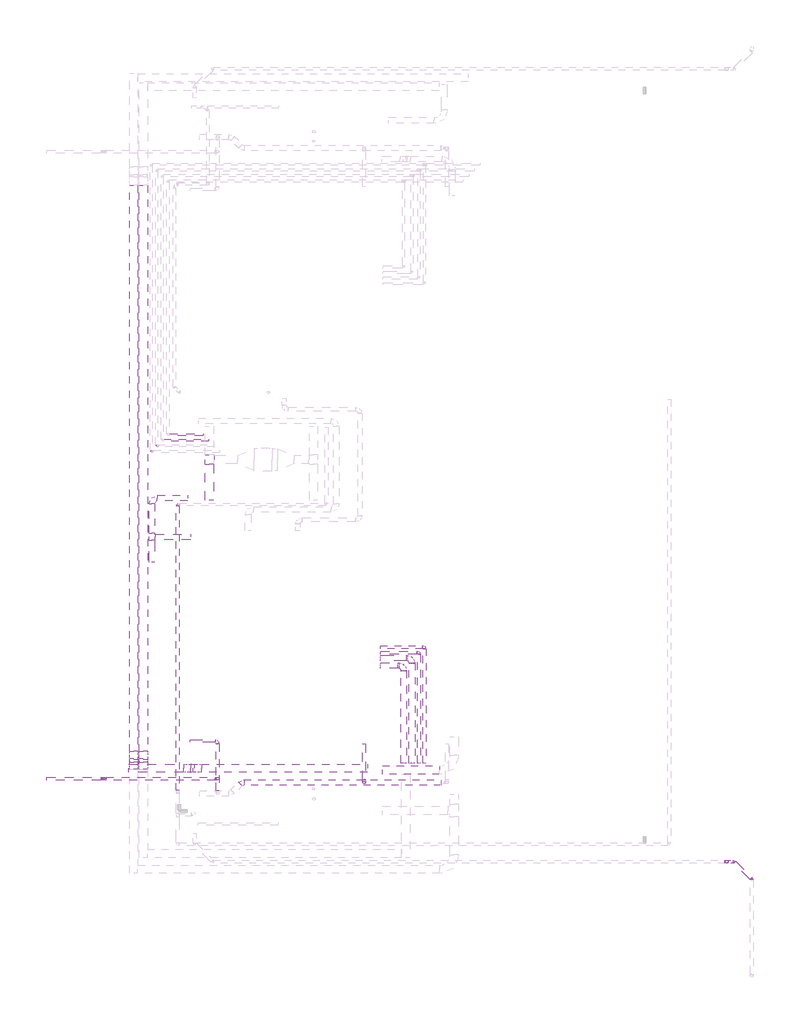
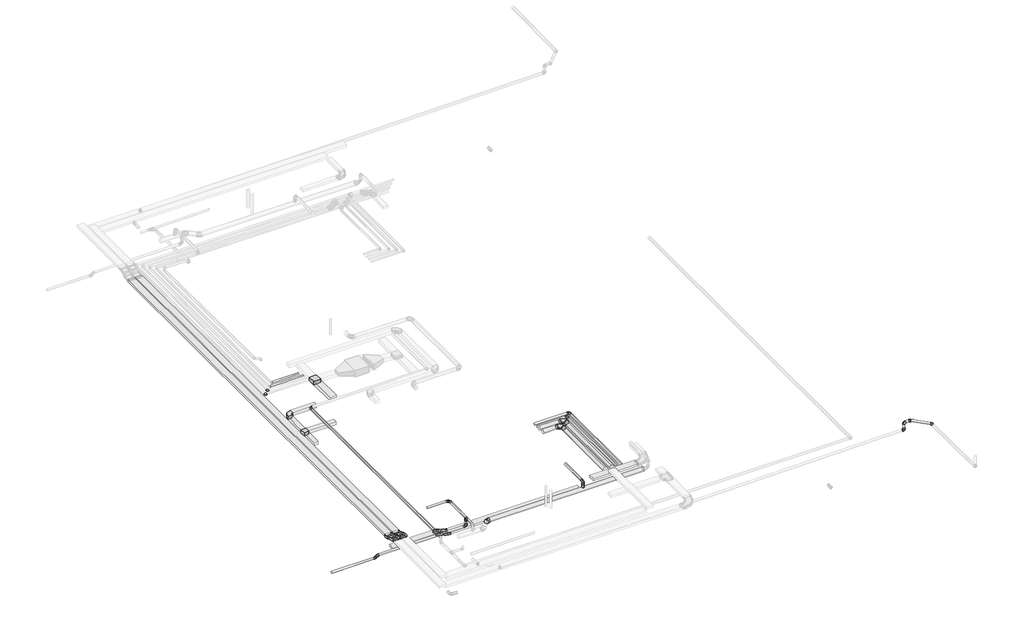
# One storey, part 2 of 5: 14 duct segments, 14 pipe segments, 11 duct fittings, 11 pipe fittings, 8 cable carrier segments, 6 cable carrier fittings.
"""IFC4 building model written with IfcOpenShell, lengths in millimetres."""

from ifc_helpers import new_model, si_unit, point, frame, frame_2d, origin, place, context, project, spatial, polyline, circle_curve, trimmed, segment, composite_curve, outline, extrude, transform, mapped, element, save
from components import m_codo_vertical_exterior_de_canal_el_547dc688, m_codo_vertical_interior_de_canal_el_a775c4ca, apt_33348139, ext_8b80eda7, ext_110b8343, ext_95de42ea, m_codo_rectangular_radio_apt_1_w_a605e9b7, m_codo_redondo_ext_1_d_96ea52f9, m_codo_redondo_ext_1_d_19f6bd6d, m_codo_redondo_ext_1_d_bb529a0e, pipe_fitting_0b7fd5a4, pipe_fitting_aab77541, pipe_fitting_0af9fee6, pipe_fitting_39727cd3, pipe_fitting_3b77712d, pipe_fitting_2358b14d, pipe_fitting_3a68447e, pipe_fitting_87aeffad

model = new_model("IFC4")

# Units and contexts
model_context = context("Model", 3, world=origin())
ifc_project = project(units=[si_unit("LENGTHUNIT", "METRE", prefix="MILLI")], contexts=[model_context])

# Site, building, storey
site = spatial("IfcSite", under=ifc_project)
building = spatial("IfcBuilding", under=site)
storey = spatial("IfcBuildingStorey", under=building, Name="Nivell 03 P03_PP", Elevation=18660.0)

# Cable carrier fittings
placement = place(None, origin())
m_codo_vertical_exterior_de_canal_el_shape = m_codo_vertical_exterior_de_canal_el_547dc688(model_context)
element("IfcCableCarrierFitting", 1, ObjectType="M_Codo vertical exterior de canal : EL", at=placement, inside=storey, context=model_context, shape_type="MappedRepresentation", body=[
    mapped(m_codo_vertical_exterior_de_canal_el_shape, transform((5357.0671065, -15355.3999814, 21910.0), x_axis=(0.0, 1.0, 0.0), y_axis=(0.0, 0.0, -1.0), z_axis=(-1.0, 0.0, 0.0))),
])
element("IfcCableCarrierFitting", 2, ObjectType="M_Codo vertical exterior de canal : EL", at=placement, inside=storey, context=model_context, shape_type="MappedRepresentation", body=[
    mapped(m_codo_vertical_exterior_de_canal_el_shape, transform((5008.2381883, -15355.3999814, 21910.0), x_axis=(0.0, -0.9238795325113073, 0.38268343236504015), y_axis=(0.0, -0.38268343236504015, -0.9238795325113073), z_axis=(1.0, 0.0, 0.0))),
])
element("IfcCableCarrierFitting", 3, ObjectType="M_Codo vertical exterior de canal : EL", at=placement, inside=storey, context=model_context, shape_type="MappedRepresentation", body=[
    mapped(m_codo_vertical_exterior_de_canal_el_shape, transform((6956.7785309, -15459.2996833, 21560.0), x_axis=(1.0, 0.0, 0.0), y_axis=(0.0, 0.0, -1.0), z_axis=(0.0, 1.0, 0.0))),
])
m_codo_vertical_interior_de_canal_el_shape = m_codo_vertical_interior_de_canal_el_a775c4ca(model_context)
element("IfcCableCarrierFitting", 4, ObjectType="M_Codo vertical interior de canal : EL", at=placement, inside=storey, context=model_context, shape_type="MappedRepresentation", body=[
    mapped(m_codo_vertical_interior_de_canal_el_shape, transform((5357.0671065, -14993.267947, 21760.0), x_axis=(0.0, 0.9238795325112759, -0.38268343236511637), y_axis=(0.0, 0.38268343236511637, 0.9238795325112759), z_axis=(1.0, 0.0, 0.0))),
])
element("IfcCableCarrierFitting", 5, ObjectType="M_Codo vertical interior de canal : EL", at=placement, inside=storey, context=model_context, shape_type="MappedRepresentation", body=[
    mapped(m_codo_vertical_interior_de_canal_el_shape, transform((5008.2381883, -14993.267947, 21760.0), x_axis=(0.0, -1.0, 0.0), y_axis=(0.0, 0.0, 1.0), z_axis=(-1.0, 0.0, 0.0))),
])
element("IfcCableCarrierFitting", 6, ObjectType="M_Codo vertical interior de canal : EL", at=placement, inside=storey, context=model_context, shape_type="MappedRepresentation", body=[
    mapped(m_codo_vertical_interior_de_canal_el_shape, transform((7318.9105653, -15459.2996833, 21410.0), x_axis=(0.9238795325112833, 0.0, -0.38268343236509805), y_axis=(0.38268343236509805, 0.0, 0.9238795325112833), z_axis=(0.0, -1.0, 0.0))),
])

# Cable carrier segments
element("IfcCableCarrierSegment", 7, ObjectType="EL", at=placement, inside=storey, context=model_context, shape_type="SweptSolid", body=[
    extrude(outline(polyline([(6812.1592023, -15309.2996833), (6812.1592023, -15609.2996833), (4831.7785309, -15609.2996833), (4831.7785309, -15309.2996833), (6812.1592023, -15309.2996833)])), frame((0.0, 0.0, 21510.0), z_axis=(0.0, 0.0, 1.0), x_axis=(1.0, 0.0, 0.0)), (0.0, 0.0, 1.0), 100.0),
])
element("IfcCableCarrierSegment", 8, ObjectType="EL", at=placement, inside=storey, context=model_context, shape_type="SweptSolid", body=[
    extrude(outline(polyline([(16089.6624278, -15371.1304394), (16089.6624278, -15671.1304394), (14011.0671065, -15671.1304394), (14011.0671065, -15371.1304394), (16089.6624278, -15371.1304394)])), frame((0.0, 0.0, 21710.0), z_axis=(0.0, 0.0, 1.0), x_axis=(1.0, 0.0, 0.0)), (0.0, 0.0, 1.0), 100.0),
])
element("IfcCableCarrierSegment", 9, ObjectType="EL", at=placement, inside=storey, context=model_context, shape_type="SweptSolid", body=[
    extrude(outline(polyline([(0.0, -300.0), (0.0, 0.0), (102.7302323, 0.0), (102.7302323, -300.0), (0.0, -300.0)])), frame((5207.0671065, -15240.9233153, 21808.4626023), z_axis=(0.0, 0.38268343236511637, 0.9238795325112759), x_axis=(0.0, 0.9238795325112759, -0.38268343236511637)), (0.0, 0.0, 1.0), 100.0),
])
element("IfcCableCarrierSegment", 10, ObjectType="EL", at=placement, inside=storey, context=model_context, shape_type="SweptSolid", body=[
    extrude(outline(polyline([(5507.0671065, -14848.6486184), (5207.0671065, -14848.6486184), (5207.0671065, 5634.423571), (5507.0671065, 5634.423571), (5507.0671065, -14848.6486184)])), frame((0.0, 0.0, 21710.0), z_axis=(0.0, 0.0, 1.0), x_axis=(1.0, 0.0, 0.0)), (0.0, 0.0, 1.0), 100.0),
])
element("IfcCableCarrierSegment", 11, ObjectType="EL", at=placement, inside=storey, context=model_context, shape_type="SweptSolid", body=[
    extrude(outline(polyline([(4858.2381883, 5634.423571), (5158.2381883, 5634.423571), (5158.2381883, -14848.6486184), (4858.2381883, -14848.6486184), (4858.2381883, 5634.423571)])), frame((0.0, 0.0, 21710.0), z_axis=(0.0, 0.0, 1.0), x_axis=(1.0, 0.0, 0.0)), (0.0, 0.0, 1.0), 100.0),
])
element("IfcCableCarrierSegment", 12, ObjectType="EL", at=placement, inside=storey, context=model_context, shape_type="SweptSolid", body=[
    extrude(outline(polyline([(0.0, -300.0), (0.0, 0.0), (102.7302323, 0.0), (102.7302323, -300.0), (0.0, -300.0)])), frame((5158.2381883, -15146.0129563, 21769.1494444), z_axis=(0.0, 0.3826834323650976, 0.9238795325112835), x_axis=(0.0, -0.9238795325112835, 0.3826834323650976)), (0.0, 0.0, 1.0), 100.0),
])
element("IfcCableCarrierSegment", 13, ObjectType="EL", at=placement, inside=storey, context=model_context, shape_type="SweptSolid", body=[
    extrude(outline(polyline([(7463.5298938, -15609.2996833), (7463.5298938, -15309.2996833), (13469.9876148, -15309.2996833), (13469.9876148, -15609.2996833), (7463.5298938, -15609.2996833)])), frame((0.0, 0.0, 21360.0), z_axis=(0.0, 0.0, 1.0), x_axis=(1.0, 0.0, 0.0)), (0.0, 0.0, 1.0), 100.0),
])
element("IfcCableCarrierSegment", 14, ObjectType="EL", at=placement, inside=storey, context=model_context, shape_type="SweptSolid", body=[
    extrude(outline(polyline([(0.0, -300.0), (0.0, 0.0), (102.7302323, 0.0), (102.7302323, -300.0), (0.0, -300.0)])), frame((7071.255197, -15309.2996833, 21458.4626023), z_axis=(0.38268343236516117, 0.0, 0.9238795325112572), x_axis=(0.9238795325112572, 0.0, -0.38268343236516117)), (0.0, 0.0, 1.0), 100.0),
])

# Duct fittings
apt_shape = apt_33348139(model_context)
element("IfcDuctFitting", 15, ObjectType="M_Te rectangular : APT", at=placement, inside=storey, context=model_context, shape_type="MappedRepresentation", body=[
    mapped(apt_shape, transform((5665.7790997, -7084.7059364, 21810.0), x_axis=(0.0, 1.0, 0.0), y_axis=(-1.0, 0.0, 0.0), z_axis=(0.0, 0.0, 1.0))),
])
ext_shape = ext_8b80eda7(model_context)
element("IfcDuctFitting", 16, ObjectType="M_Toma de derivación redonda : EXT", at=placement, inside=storey, context=model_context, shape_type="MappedRepresentation", body=[
    mapped(ext_shape, transform((13350.5896993, -15972.9719502, 21840.0), x_axis=(0.0, 0.0, 1.0), y_axis=(-1.0, 0.0, 0.0), z_axis=(0.0, -1.0, 0.0))),
])
ext_2_shape = ext_110b8343(model_context)
element("IfcDuctFitting", 17, ObjectType="M_Toma de derivación redonda : EXT", at=placement, inside=storey, context=model_context, shape_type="MappedRepresentation", body=[
    mapped(ext_2_shape, transform((8050.5896993, -15837.2857017, 22060.0), x_axis=(0.0, 0.0, -1.0), y_axis=(0.0, -1.0, 0.0), z_axis=(-1.0, 0.0, 0.0))),
])
ext_3_shape = ext_95de42ea(model_context)
element("IfcDuctFitting", 18, ObjectType="M_Te rectangular : EXT", at=placement, inside=storey, context=model_context, shape_type="MappedRepresentation", body=[
    mapped(ext_3_shape, transform((7746.1618177, -4289.990201, 21927.1198525), x_axis=(0.0, 1.0, 0.0), y_axis=(-1.0, 0.0, 0.0), z_axis=(0.0, 0.0, 1.0))),
])
m_codo_rectangular_radio_apt_1_w_shape = m_codo_rectangular_radio_apt_1_w_a605e9b7(model_context)
element("IfcDuctFitting", 19, ObjectType="M_Codo rectangular - Radio : APT_1 W", at=placement, inside=storey, context=model_context, shape_type="MappedRepresentation", body=[
    mapped(m_codo_rectangular_radio_apt_1_w_shape, transform((5665.7790997, -5684.7059364, 21810.0), x_axis=(-1.0, 0.0, 0.0), y_axis=(0.0, -1.0, 0.0), z_axis=(0.0, 0.0, 1.0))),
])
m_codo_redondo_ext_1_d_shape = m_codo_redondo_ext_1_d_96ea52f9(model_context)
element("IfcDuctFitting", 20, ObjectType="M_Codo redondo : EXT_1 D", at=placement, inside=storey, context=model_context, shape_type="MappedRepresentation", body=[
    mapped(m_codo_redondo_ext_1_d_shape, transform((8050.5896993, -14471.4839002, 22110.0), x_axis=(1.0, 0.0, 0.0), y_axis=(0.0, 1.0, 0.0), z_axis=(0.0, 0.0, 1.0))),
])
element("IfcDuctFitting", 21, ObjectType="M_Codo redondo : EXT_1 D", at=placement, inside=storey, context=model_context, shape_type="MappedRepresentation", body=[
    mapped(m_codo_redondo_ext_1_d_shape, transform((13350.5896993, -15972.9719502, 22110.0), x_axis=(0.0, -1.0, 0.0), y_axis=(0.0, 0.0, 1.0), z_axis=(-1.0, 0.0, 0.0))),
])
element("IfcDuctFitting", 22, ObjectType="M_Codo redondo : EXT_1 D", at=placement, inside=storey, context=model_context, shape_type="MappedRepresentation", body=[
    mapped(m_codo_redondo_ext_1_d_shape, transform((8050.5896993, -15837.2857017, 21710.0), x_axis=(0.0, 0.0, -1.0), y_axis=(1.0, 0.0, 0.0), z_axis=(0.0, -1.0, 0.0))),
])
m_codo_redondo_ext_1_d_2_shape = m_codo_redondo_ext_1_d_19f6bd6d(model_context)
element("IfcDuctFitting", 23, ObjectType="M_Codo redondo : EXT_1 D", at=placement, inside=storey, context=model_context, shape_type="MappedRepresentation", body=[
    mapped(m_codo_redondo_ext_1_d_2_shape, transform((8930.5896993, -15972.9719502, 21740.0), x_axis=(0.7071067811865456, 0.7071067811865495, 0.0), y_axis=(-0.7071067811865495, 0.7071067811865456, 0.0), z_axis=(0.0, 0.0, 1.0))),
])
m_codo_redondo_ext_1_d_3_shape = m_codo_redondo_ext_1_d_bb529a0e(model_context)
element("IfcDuctFitting", 24, ObjectType="M_Codo redondo : EXT_1 D", at=placement, inside=storey, context=model_context, shape_type="MappedRepresentation", body=[
    mapped(m_codo_redondo_ext_1_d_3_shape, transform((3864.5896993, -15837.2857017, 21610.0), x_axis=(1.0, 0.0, 0.0), y_axis=(0.0, 0.0, -1.0), z_axis=(0.0, 1.0, 0.0))),
])
element("IfcDuctFitting", 25, ObjectType="M_Codo redondo : EXT_1 D", at=placement, inside=storey, context=model_context, shape_type="MappedRepresentation", body=[
    mapped(m_codo_redondo_ext_1_d_3_shape, transform((3964.5896993, -15837.2857017, 21710.0), x_axis=(0.7071067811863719, 0.0, 0.7071067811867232), y_axis=(-0.7071067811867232, 0.0, 0.7071067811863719), z_axis=(0.0, -1.0, 0.0))),
])

# Duct segments
element("IfcDuctSegment", 26, ObjectType="APT_Fibra de vidre rígida", at=placement, inside=storey, context=model_context, shape_type="SweptSolid", body=[
    extrude(outline(polyline([(7065.7790997, -6984.7059364), (7065.7790997, -7184.7059364), (5790.7790997, -7184.7059364), (5790.7790997, -6984.7059364), (7065.7790997, -6984.7059364)])), frame((0.0, 0.0, 21735.0), z_axis=(0.0, 0.0, 1.0), x_axis=(1.0, 0.0, 0.0)), (0.0, 0.0, 1.0), 150.0),
])
element("IfcDuctSegment", 27, ObjectType="APT_Fibra de vidre rígida", at=placement, inside=storey, context=model_context, shape_type="SweptSolid", body=[
    extrude(outline(polyline([(5765.7790997, -6959.7059364), (5565.7790997, -6959.7059364), (5565.7790997, -5884.7059364), (5765.7790997, -5884.7059364), (5765.7790997, -6959.7059364)])), frame((0.0, 0.0, 21735.0), z_axis=(0.0, 0.0, 1.0), x_axis=(1.0, 0.0, 0.0)), (0.0, 0.0, 1.0), 150.0),
])
element("IfcDuctSegment", 28, ObjectType="APT_Fibra de vidre rígida", at=placement, inside=storey, context=model_context, shape_type="SweptSolid", body=[
    extrude(outline(polyline([(5865.7790997, -5784.7059364), (5865.7790997, -5584.7059364), (6965.7790997, -5584.7059364), (6965.7790997, -5784.7059364), (5865.7790997, -5784.7059364)])), frame((0.0, 0.0, 21735.0), z_axis=(0.0, 0.0, 1.0), x_axis=(1.0, 0.0, 0.0)), (0.0, 0.0, 1.0), 150.0),
])
element("IfcDuctSegment", 29, ObjectType="APT_Fibra de vidre rígida", at=placement, inside=storey, context=model_context, shape_type="SweptSolid", body=[
    extrude(outline(polyline([(5565.7790997, -7209.7059364), (5765.7790997, -7209.7059364), (5765.7790997, -8009.7059364), (5565.7790997, -8009.7059364), (5565.7790997, -7209.7059364)])), frame((0.0, 0.0, 21735.0), z_axis=(0.0, 0.0, 1.0), x_axis=(1.0, 0.0, 0.0)), (0.0, 0.0, 1.0), 150.0),
])
element("IfcDuctSegment", 30, ObjectType="EXT_Acer Galvanitzat - Rígid", at=placement, inside=storey, context=model_context, shape_type="SweptSolid", body=[
    extrude(outline(composite_curve([segment(trimmed(circle_curve(frame_2d((-15972.9719502, 21740.0)), 100.0), [point((-15872.9719502, 21740.0))], [point((-15972.9719502, 21640.0))], False, "CARTESIAN"), True, "CONTINUOUS"), segment(trimmed(circle_curve(frame_2d((-15972.9719502, 21740.0)), 100.0), [point((-15972.9719502, 21640.0))], [point((-16072.9719502, 21740.0))], False, "CARTESIAN"), True, "CONTINUOUS"), segment(trimmed(circle_curve(frame_2d((-15972.9719502, 21740.0)), 100.0), [point((-16072.9719502, 21740.0))], [point((-15972.9719502, 21840.0))], False, "CARTESIAN"), True, "CONTINUOUS"), segment(trimmed(circle_curve(frame_2d((-15972.9719502, 21740.0)), 100.0), [point((-15972.9719502, 21840.0))], [point((-15872.9719502, 21740.0))], False, "CARTESIAN"), True, "CONTINUOUS")], self_intersect=False)), frame((9013.4324117, 0.0, 0.0), z_axis=(1.0, 0.0, 0.0), x_axis=(0.0, 1.0, 0.0)), (0.0, 0.0, 1.0), 7116.4466094),
])
element("IfcDuctSegment", 31, ObjectType="EXT_Acer Galvanitzat - Rígid", at=placement, inside=storey, context=model_context, shape_type="SweptSolid", body=[
    extrude(outline(composite_curve([segment(trimmed(circle_curve(frame_2d((-14471.4839002, 22110.0)), 50.0), [point((-14521.4839002, 22110.0))], [point((-14471.4839002, 22160.0))], False, "CARTESIAN"), True, "CONTINUOUS"), segment(trimmed(circle_curve(frame_2d((-14471.4839002, 22110.0)), 50.0), [point((-14471.4839002, 22160.0))], [point((-14421.4839002, 22110.0))], False, "CARTESIAN"), True, "CONTINUOUS"), segment(trimmed(circle_curve(frame_2d((-14471.4839002, 22110.0)), 50.0), [point((-14421.4839002, 22110.0))], [point((-14471.4839002, 22060.0))], False, "CARTESIAN"), True, "CONTINUOUS"), segment(trimmed(circle_curve(frame_2d((-14471.4839002, 22110.0)), 50.0), [point((-14471.4839002, 22060.0))], [point((-14521.4839002, 22110.0))], False, "CARTESIAN"), True, "CONTINUOUS")], self_intersect=False)), frame((7050.5896993, 0.0, 0.0), z_axis=(1.0, 0.0, 0.0), x_axis=(0.0, 1.0, 0.0)), (0.0, 0.0, 1.0), 900.0),
])
element("IfcDuctSegment", 32, ObjectType="EXT_Acer Galvanitzat - Rígid", at=placement, inside=storey, context=model_context, shape_type="SweptSolid", body=[
    extrude(outline(composite_curve([segment(trimmed(circle_curve(frame_2d((22110.0, 8050.5896993)), 50.0), [point((22110.0, 8100.5896993))], [point((22160.0, 8050.5896993))], False, "CARTESIAN"), True, "CONTINUOUS"), segment(trimmed(circle_curve(frame_2d((22110.0, 8050.5896993)), 50.0), [point((22160.0, 8050.5896993))], [point((22110.0, 8000.5896993))], False, "CARTESIAN"), True, "CONTINUOUS"), segment(trimmed(circle_curve(frame_2d((22110.0, 8050.5896993)), 50.0), [point((22110.0, 8000.5896993))], [point((22060.0, 8050.5896993))], False, "CARTESIAN"), True, "CONTINUOUS"), segment(trimmed(circle_curve(frame_2d((22110.0, 8050.5896993)), 50.0), [point((22060.0, 8050.5896993))], [point((22110.0, 8100.5896993))], False, "CARTESIAN"), True, "CONTINUOUS")], self_intersect=False)), frame((0.0, -16272.9719502, 0.0), z_axis=(0.0, 1.0, 0.0), x_axis=(0.0, 0.0, 1.0)), (0.0, 0.0, 1.0), 1701.48805),
])
element("IfcDuctSegment", 33, ObjectType="EXT_Acer Galvanitzat - Rígid", at=placement, inside=storey, context=model_context, shape_type="SweptSolid", body=[
    extrude(outline(composite_curve([segment(trimmed(circle_curve(frame_2d((22110.0, 13350.5896993)), 50.0), [point((22110.0, 13400.5896993))], [point((22160.0, 13350.5896993))], False, "CARTESIAN"), True, "CONTINUOUS"), segment(trimmed(circle_curve(frame_2d((22110.0, 13350.5896993)), 50.0), [point((22160.0, 13350.5896993))], [point((22110.0, 13300.5896993))], False, "CARTESIAN"), True, "CONTINUOUS"), segment(trimmed(circle_curve(frame_2d((22110.0, 13350.5896993)), 50.0), [point((22110.0, 13300.5896993))], [point((22060.0, 13350.5896993))], False, "CARTESIAN"), True, "CONTINUOUS"), segment(trimmed(circle_curve(frame_2d((22110.0, 13350.5896993)), 50.0), [point((22060.0, 13350.5896993))], [point((22110.0, 13400.5896993))], False, "CARTESIAN"), True, "CONTINUOUS")], self_intersect=False)), frame((0.0, -15872.9719502, 0.0), z_axis=(0.0, 1.0, 0.0), x_axis=(0.0, 0.0, 1.0)), (0.0, 0.0, 1.0), 1301.48805),
])
element("IfcDuctSegment", 34, ObjectType="EXT_Acer Galvanitzat - Rígid", at=placement, inside=storey, context=model_context, shape_type="SweptSolid", body=[
    extrude(outline(composite_curve([segment(trimmed(circle_curve(frame_2d((13350.5896993, -15972.9719502)), 50.0), [point((13300.5896993, -15972.9719502))], [point((13350.5896993, -15922.9719502))], False, "CARTESIAN"), True, "CONTINUOUS"), segment(trimmed(circle_curve(frame_2d((13350.5896993, -15972.9719502)), 50.0), [point((13350.5896993, -15922.9719502))], [point((13400.5896993, -15972.9719502))], False, "CARTESIAN"), True, "CONTINUOUS"), segment(trimmed(circle_curve(frame_2d((13350.5896993, -15972.9719502)), 50.0), [point((13400.5896993, -15972.9719502))], [point((13350.5896993, -16022.9719502))], False, "CARTESIAN"), True, "CONTINUOUS"), segment(trimmed(circle_curve(frame_2d((13350.5896993, -15972.9719502)), 50.0), [point((13350.5896993, -16022.9719502))], [point((13300.5896993, -15972.9719502))], False, "CARTESIAN"), True, "CONTINUOUS")], self_intersect=False)), frame((0.0, 0.0, 21941.6), z_axis=(0.0, 0.0, 1.0), x_axis=(1.0, 0.0, 0.0)), (0.0, 0.0, 1.0), 68.4),
])
element("IfcDuctSegment", 35, ObjectType="EXT_Acer Galvanitzat - Rígid", at=placement, inside=storey, context=model_context, shape_type="SweptSolid", body=[
    extrude(outline(composite_curve([segment(trimmed(circle_curve(frame_2d((8050.5896993, -15837.2857017)), 50.0), [point((8050.5896993, -15787.2857017))], [point((8100.5896993, -15837.2857017))], False, "CARTESIAN"), True, "CONTINUOUS"), segment(trimmed(circle_curve(frame_2d((8050.5896993, -15837.2857017)), 50.0), [point((8100.5896993, -15837.2857017))], [point((8050.5896993, -15887.2857017))], False, "CARTESIAN"), True, "CONTINUOUS"), segment(trimmed(circle_curve(frame_2d((8050.5896993, -15837.2857017)), 50.0), [point((8050.5896993, -15887.2857017))], [point((8000.5896993, -15837.2857017))], False, "CARTESIAN"), True, "CONTINUOUS"), segment(trimmed(circle_curve(frame_2d((8050.5896993, -15837.2857017)), 50.0), [point((8000.5896993, -15837.2857017))], [point((8050.5896993, -15787.2857017))], False, "CARTESIAN"), True, "CONTINUOUS")], self_intersect=False)), frame((0.0, 0.0, 21810.0), z_axis=(0.0, 0.0, 1.0), x_axis=(1.0, 0.0, 0.0)), (0.0, 0.0, 1.0), 148.4),
])
element("IfcDuctSegment", 36, ObjectType="EXT_Acer Galvanitzat - Rígid", at=placement, inside=storey, context=model_context, shape_type="SweptSolid", body=[
    extrude(outline(composite_curve([segment(trimmed(circle_curve(frame_2d((-15837.2857017, 21610.0)), 50.0), [point((-15787.2857017, 21610.0))], [point((-15837.2857017, 21560.0))], False, "CARTESIAN"), True, "CONTINUOUS"), segment(trimmed(circle_curve(frame_2d((-15837.2857017, 21610.0)), 50.0), [point((-15837.2857017, 21560.0))], [point((-15887.2857017, 21610.0))], False, "CARTESIAN"), True, "CONTINUOUS"), segment(trimmed(circle_curve(frame_2d((-15837.2857017, 21610.0)), 50.0), [point((-15887.2857017, 21610.0))], [point((-15837.2857017, 21660.0))], False, "CARTESIAN"), True, "CONTINUOUS"), segment(trimmed(circle_curve(frame_2d((-15837.2857017, 21610.0)), 50.0), [point((-15837.2857017, 21660.0))], [point((-15787.2857017, 21610.0))], False, "CARTESIAN"), True, "CONTINUOUS")], self_intersect=False)), frame((1850.5896993, 0.0, 0.0), z_axis=(1.0, 0.0, 0.0), x_axis=(0.0, 1.0, 0.0)), (0.0, 0.0, 1.0), 1972.5786438),
])
element("IfcDuctSegment", 37, ObjectType="EXT_Acer Galvanitzat - Rígid", at=placement, inside=storey, context=model_context, shape_type="SweptSolid", body=[
    extrude(outline(composite_curve([segment(trimmed(circle_curve(frame_2d((0.0, 50.0)), 50.0), [point((0.0, 0.0))], [point((-49.9999999, 50.0))], False, "CARTESIAN"), True, "CONTINUOUS"), segment(trimmed(circle_curve(frame_2d((0.0, 50.0)), 50.0), [point((-49.9999999, 50.0))], [point((0.0, 100.0))], False, "CARTESIAN"), True, "CONTINUOUS"), segment(trimmed(circle_curve(frame_2d((0.0, 50.0)), 50.0), [point((0.0, 100.0))], [point((50.0000001, 50.0))], False, "CARTESIAN"), True, "CONTINUOUS"), segment(trimmed(circle_curve(frame_2d((0.0, 50.0)), 50.0), [point((50.0000001, 50.0))], [point((0.0, 0.0))], False, "CARTESIAN"), True, "CONTINUOUS")], self_intersect=False)), frame((3893.8790211, -15887.2857017, 21639.2893219), z_axis=(0.7071067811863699, 0.0, 0.7071067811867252), x_axis=(0.7071067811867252, 0.0, -0.7071067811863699)), (0.0, 0.0, 1.0), 58.5786438),
])
element("IfcDuctSegment", 38, ObjectType="EXT_Acer Galvanitzat - Rígid", at=placement, inside=storey, context=model_context, shape_type="SweptSolid", body=[
    extrude(outline(composite_curve([segment(trimmed(circle_curve(frame_2d((-15837.2857017, 21710.0)), 50.0), [point((-15787.2857017, 21710.0))], [point((-15837.2857017, 21660.0))], False, "CARTESIAN"), True, "CONTINUOUS"), segment(trimmed(circle_curve(frame_2d((-15837.2857017, 21710.0)), 50.0), [point((-15837.2857017, 21660.0))], [point((-15887.2857017, 21710.0))], False, "CARTESIAN"), True, "CONTINUOUS"), segment(trimmed(circle_curve(frame_2d((-15837.2857017, 21710.0)), 50.0), [point((-15887.2857017, 21710.0))], [point((-15837.2857017, 21760.0))], False, "CARTESIAN"), True, "CONTINUOUS"), segment(trimmed(circle_curve(frame_2d((-15837.2857017, 21710.0)), 50.0), [point((-15837.2857017, 21760.0))], [point((-15787.2857017, 21710.0))], False, "CARTESIAN"), True, "CONTINUOUS")], self_intersect=False)), frame((4006.0110555, 0.0, 0.0), z_axis=(1.0, 0.0, 0.0), x_axis=(0.0, 1.0, 0.0)), (0.0, 0.0, 1.0), 3944.5786438),
])
element("IfcDuctSegment", 39, ObjectType="EXT_Planxa galvanitzada", at=placement, inside=storey, context=model_context, shape_type="SweptSolid", body=[
    extrude(outline(polyline([(7596.1618177, -4464.9902015), (7896.1618177, -4464.9902004), (7896.1618227, -5765.056672), (7596.1618227, -5765.0566731), (7596.1618177, -4464.9902015)])), frame((0.0, 0.0, 21852.1198525), z_axis=(0.0, 0.0, 1.0), x_axis=(1.0, 0.0, 0.0)), (0.0, 0.0, 1.0), 150.0),
])

# Pipe fittings
pipe_fitting_shape = pipe_fitting_0b7fd5a4(model_context)
element("IfcPipeFitting", 40, ObjectType="M_Codo - Genérico : Estándar", at=placement, inside=storey, context=model_context, shape_type="MappedRepresentation", body=[
    mapped(pipe_fitting_shape, transform((27389.4059114, -19474.4581925, 22124.9769213), x_axis=(0.0, 0.9999500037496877, -0.009999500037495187), y_axis=(-0.9999914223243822, -4.141685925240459e-05, -0.004141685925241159), z_axis=(-0.004141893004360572, 0.009999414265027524, 0.9999414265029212))),
])
pipe_fitting_2_shape = pipe_fitting_aab77541(model_context)
element("IfcPipeFitting", 41, ObjectType="M_Codo - Genérico : Estándar", at=placement, inside=storey, context=model_context, shape_type="MappedRepresentation", body=[
    mapped(pipe_fitting_2_shape, transform((26487.5503889, -18840.3956727, 21762.2425601), x_axis=(0.9999500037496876, 0.0, 0.00999950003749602), y_axis=(-0.00999950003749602, 0.0, 0.9999500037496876), z_axis=(0.0, -1.0, 0.0))),
])
pipe_fitting_3_shape = pipe_fitting_0af9fee6(model_context)
element("IfcPipeFitting", 42, ObjectType="M_Codo - Genérico : Estándar", at=placement, inside=storey, context=model_context, shape_type="MappedRepresentation", body=[
    mapped(pipe_fitting_3_shape, transform((26755.352721, -18840.4049607, 22116.0030113), x_axis=(-0.7070713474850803, 0.7070713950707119, -0.010007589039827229), y_axis=(-0.7070715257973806, -0.7071299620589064, -0.0041320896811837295), z_axis=(-0.009998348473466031, 0.004154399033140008, 0.9999413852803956))),
])
pipe_fitting_4_shape = pipe_fitting_39727cd3(model_context)
element("IfcPipeFitting", 43, ObjectType="M_Codo - Genérico : Estándar", at=placement, inside=storey, context=model_context, shape_type="MappedRepresentation", body=[
    mapped(pipe_fitting_4_shape, transform((26487.5503889, -18840.4049607, 22113.3252733), x_axis=(-0.9999500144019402, 0.0, -0.009998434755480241), y_axis=(0.009998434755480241, 0.0, -0.9999500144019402), z_axis=(0.0, -1.0, 0.0))),
])
pipe_fitting_5_shape = pipe_fitting_3b77712d(model_context)
element("IfcPipeFitting", 44, ObjectType="M_Codo - Genérico : Estándar", at=placement, inside=storey, context=model_context, shape_type="MappedRepresentation", body=[
    mapped(pipe_fitting_5_shape, transform((15537.4352568, -11073.2087902, 21715.0), x_axis=(1.0, 0.0, 0.0), y_axis=(0.0, 1.0, 0.0), z_axis=(0.0, 0.0, 1.0))),
])
element("IfcPipeFitting", 45, ObjectType="M_Codo - Genérico : Estándar", at=placement, inside=storey, context=model_context, shape_type="MappedRepresentation", body=[
    mapped(pipe_fitting_5_shape, transform((15337.4352568, -11273.2087902, 21715.0), x_axis=(1.0, 0.0, 0.0), y_axis=(0.0, 1.0, 0.0), z_axis=(0.0, 0.0, 1.0))),
])
pipe_fitting_6_shape = pipe_fitting_2358b14d(model_context)
element("IfcPipeFitting", 46, ObjectType="Codo 90º Soldadura a Tope SDR 11 BluePipe : Estándar", at=placement, inside=storey, context=model_context, shape_type="MappedRepresentation", body=[
    mapped(pipe_fitting_6_shape, transform((14787.4352568, -11743.2087902, 21760.0), x_axis=(1.0, 0.0, 0.0), y_axis=(0.0, 1.0, 0.0), z_axis=(0.0, 0.0, 1.0))),
])
element("IfcPipeFitting", 47, ObjectType="Codo 90º Soldadura a Tope SDR 11 BluePipe : Estándar", at=placement, inside=storey, context=model_context, shape_type="MappedRepresentation", body=[
    mapped(pipe_fitting_6_shape, transform((15087.4352568, -11473.2087902, 21760.0), x_axis=(1.0, 0.0, 0.0), y_axis=(0.0, 1.0, 0.0), z_axis=(0.0, 0.0, 1.0))),
])
pipe_fitting_7_shape = pipe_fitting_3a68447e(model_context)
element("IfcPipeFitting", 48, ObjectType="M_Codo - Genérico : Estándar", at=placement, inside=storey, context=model_context, shape_type="MappedRepresentation", body=[
    mapped(pipe_fitting_7_shape, transform((5845.7381883, -3794.9253722, 21772.5), x_axis=(0.0, -1.0, 0.0), y_axis=(1.0, 0.0, 0.0), z_axis=(0.0, 0.0, 1.0))),
])
element("IfcPipeFitting", 49, ObjectType="M_Codo - Genérico : Estándar", at=placement, inside=storey, context=model_context, shape_type="MappedRepresentation", body=[
    mapped(pipe_fitting_7_shape, transform((5645.7381883, -3994.9253722, 21772.5), x_axis=(0.0, -1.0, 0.0), y_axis=(1.0, 0.0, 0.0), z_axis=(0.0, 0.0, 1.0))),
])
pipe_fitting_8_shape = pipe_fitting_87aeffad(model_context)
element("IfcPipeFitting", 50, ObjectType="M_Codo - Genérico : Estándar", at=placement, inside=storey, context=model_context, shape_type="MappedRepresentation", body=[
    mapped(pipe_fitting_8_shape, transform((6603.8941113, -5912.8731458, 21960.8), x_axis=(-1.0, 0.0, 0.0), y_axis=(0.0, -1.0, 0.0), z_axis=(0.0, 0.0, 1.0))),
])

# Pipe segments
element("IfcPipeSegment", 51, ObjectType="PVC_Baixant", at=placement, inside=storey, context=model_context, shape_type="SweptSolid", body=[
    extrude(outline(composite_curve([segment(trimmed(circle_curve(frame_2d((0.0, -55.0)), 55.0), [point((54.997246, -54.4496102))], [point((0.5503897, -109.9972461))], False, "CARTESIAN"), True, "CONTINUOUS"), segment(trimmed(circle_curve(frame_2d((0.0, -55.0)), 55.0), [point((0.5503897, -109.9972461))], [point((-54.997246, -55.5503898))], False, "CARTESIAN"), True, "CONTINUOUS"), segment(trimmed(circle_curve(frame_2d((0.0, -55.0)), 55.0), [point((-54.997246, -55.5503898))], [point((-0.5503899, -0.0027539))], False, "CARTESIAN"), True, "CONTINUOUS"), segment(trimmed(circle_curve(frame_2d((0.0, -55.0)), 55.0), [point((-0.5503899, -0.0027539))], [point((54.997246, -54.4496102))], False, "CARTESIAN"), True, "CONTINUOUS")], self_intersect=False)), frame((26773.7846855, -18858.0585576, 22171.2583814), z_axis=(0.7070713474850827, -0.7070713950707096, 0.010007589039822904), x_axis=(0.7071422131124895, 0.7070005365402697, -0.010006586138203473)), (0.0, 0.0, 1.0), 844.5954746),
])
element("IfcPipeSegment", 52, ObjectType="PVC_Baixant", at=placement, inside=storey, context=model_context, shape_type="SweptSolid", body=[
    extrude(outline(composite_curve([segment(trimmed(circle_curve(frame_2d((0.0, -55.0)), 55.0), [point((0.0, 0.0))], [point((55.0, -55.0))], False, "CARTESIAN"), True, "CONTINUOUS"), segment(trimmed(circle_curve(frame_2d((0.0, -55.0)), 55.0), [point((55.0, -55.0))], [point((0.0, -110.0))], False, "CARTESIAN"), True, "CONTINUOUS"), segment(trimmed(circle_curve(frame_2d((0.0, -55.0)), 55.0), [point((0.0, -110.0))], [point((-55.0, -55.0))], False, "CARTESIAN"), True, "CONTINUOUS"), segment(trimmed(circle_curve(frame_2d((0.0, -55.0)), 55.0), [point((-55.0, -55.0))], [point((0.0, 0.0))], False, "CARTESIAN"), True, "CONTINUOUS")], self_intersect=False)), frame((26549.8586125, -18785.4049607, 22113.9482891), z_axis=(0.9999500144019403, 0.0, 0.009998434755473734), x_axis=(0.009998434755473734, 0.0, -0.9999500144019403)), (0.0, 0.0, 1.0), 179.4363416),
])
element("IfcPipeSegment", 53, ObjectType="PVC_Baixant", at=placement, inside=storey, context=model_context, shape_type="SweptSolid", body=[
    extrude(outline(composite_curve([segment(trimmed(circle_curve(frame_2d((0.0, 54.9999999)), 55.0), [point((-55.0, 54.9999999))], [point((0.0, 110.0))], False, "CARTESIAN"), True, "CONTINUOUS"), segment(trimmed(circle_curve(frame_2d((0.0, 54.9999999)), 55.0), [point((0.0, 110.0))], [point((55.0, 54.9999999))], False, "CARTESIAN"), True, "CONTINUOUS"), segment(trimmed(circle_curve(frame_2d((0.0, 54.9999999)), 55.0), [point((55.0, 54.9999999))], [point((0.0, 0.0))], False, "CARTESIAN"), True, "CONTINUOUS"), segment(trimmed(circle_curve(frame_2d((0.0, 54.9999999)), 55.0), [point((0.0, 0.0))], [point((-55.0, 54.9999999))], False, "CARTESIAN"), True, "CONTINUOUS")], self_intersect=False)), frame((26487.5503889, -18895.3956726, 21824.5515761), z_axis=(0.0, -4.1014092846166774e-05, 0.9999999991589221), x_axis=(1.0, 0.0, 0.0)), (0.0, 0.0, 1.0), 226.4600963),
])
element("IfcPipeSegment", 54, ObjectType="PPR_CLI_Aquatherm Blue Pipe", at=placement, inside=storey, context=model_context, shape_type="SweptSolid", body=[
    extrude(outline(composite_curve([segment(trimmed(circle_curve(frame_2d((-3394.9253722, 21772.5)), 37.5), [point((-3432.4253722, 21772.5))], [point((-3394.9253722, 21810.0))], False, "CARTESIAN"), True, "CONTINUOUS"), segment(trimmed(circle_curve(frame_2d((-3394.9253722, 21772.5)), 37.5), [point((-3394.9253722, 21810.0))], [point((-3357.4253722, 21772.5))], False, "CARTESIAN"), True, "CONTINUOUS"), segment(trimmed(circle_curve(frame_2d((-3394.9253722, 21772.5)), 37.5), [point((-3357.4253722, 21772.5))], [point((-3394.9253722, 21735.0))], False, "CARTESIAN"), True, "CONTINUOUS"), segment(trimmed(circle_curve(frame_2d((-3394.9253722, 21772.5)), 37.5), [point((-3394.9253722, 21735.0))], [point((-3432.4253722, 21772.5))], False, "CARTESIAN"), True, "CONTINUOUS")], self_intersect=False)), frame((6291.1756883, 0.0, 0.0), z_axis=(1.0, 0.0, 0.0), x_axis=(0.0, 1.0, 0.0)), (0.0, 0.0, 1.0), 1234.603417),
])
element("IfcPipeSegment", 55, ObjectType="PPR_CLI_Aquatherm Blue Pipe", at=placement, inside=storey, context=model_context, shape_type="SweptSolid", body=[
    extrude(outline(composite_curve([segment(trimmed(circle_curve(frame_2d((-3594.9253722, 21772.5)), 37.5), [point((-3632.4253722, 21772.5))], [point((-3594.9253722, 21810.0))], False, "CARTESIAN"), True, "CONTINUOUS"), segment(trimmed(circle_curve(frame_2d((-3594.9253722, 21772.5)), 37.5), [point((-3594.9253722, 21810.0))], [point((-3557.4253722, 21772.5))], False, "CARTESIAN"), True, "CONTINUOUS"), segment(trimmed(circle_curve(frame_2d((-3594.9253722, 21772.5)), 37.5), [point((-3557.4253722, 21772.5))], [point((-3594.9253722, 21735.0))], False, "CARTESIAN"), True, "CONTINUOUS"), segment(trimmed(circle_curve(frame_2d((-3594.9253722, 21772.5)), 37.5), [point((-3594.9253722, 21735.0))], [point((-3632.4253722, 21772.5))], False, "CARTESIAN"), True, "CONTINUOUS")], self_intersect=False)), frame((6091.1756883, 0.0, 0.0), z_axis=(1.0, 0.0, 0.0), x_axis=(0.0, 1.0, 0.0)), (0.0, 0.0, 1.0), 1634.603417),
])
element("IfcPipeSegment", 56, ObjectType="PPR_CLI_Aquatherm Blue Pipe", at=placement, inside=storey, context=model_context, shape_type="SweptSolid", body=[
    extrude(outline(composite_curve([segment(trimmed(circle_curve(frame_2d((-11743.2087902, 21760.0)), 100.0), [point((-11643.2087902, 21760.0))], [point((-11743.2087902, 21660.0))], False, "CARTESIAN"), True, "CONTINUOUS"), segment(trimmed(circle_curve(frame_2d((-11743.2087902, 21760.0)), 100.0), [point((-11743.2087902, 21660.0))], [point((-11843.2087902, 21760.0))], False, "CARTESIAN"), True, "CONTINUOUS"), segment(trimmed(circle_curve(frame_2d((-11743.2087902, 21760.0)), 100.0), [point((-11843.2087902, 21760.0))], [point((-11743.2087902, 21860.0))], False, "CARTESIAN"), True, "CONTINUOUS"), segment(trimmed(circle_curve(frame_2d((-11743.2087902, 21760.0)), 100.0), [point((-11743.2087902, 21860.0))], [point((-11643.2087902, 21760.0))], False, "CARTESIAN"), True, "CONTINUOUS")], self_intersect=False)), frame((13947.4352568, 0.0, 0.0), z_axis=(1.0, 0.0, 0.0), x_axis=(0.0, 1.0, 0.0)), (0.0, 0.0, 1.0), 665.0),
])
element("IfcPipeSegment", 57, ObjectType="PPR_CLI_Aquatherm Blue Pipe", at=placement, inside=storey, context=model_context, shape_type="SweptSolid", body=[
    extrude(outline(composite_curve([segment(trimmed(circle_curve(frame_2d((21760.0, 14787.4352568)), 100.0), [point((21760.0, 14687.4352568))], [point((21660.0, 14787.4352568))], False, "CARTESIAN"), True, "CONTINUOUS"), segment(trimmed(circle_curve(frame_2d((21760.0, 14787.4352568)), 100.0), [point((21660.0, 14787.4352568))], [point((21760.0, 14887.4352568))], False, "CARTESIAN"), True, "CONTINUOUS"), segment(trimmed(circle_curve(frame_2d((21760.0, 14787.4352568)), 100.0), [point((21760.0, 14887.4352568))], [point((21860.0, 14787.4352568))], False, "CARTESIAN"), True, "CONTINUOUS"), segment(trimmed(circle_curve(frame_2d((21760.0, 14787.4352568)), 100.0), [point((21860.0, 14787.4352568))], [point((21760.0, 14687.4352568))], False, "CARTESIAN"), True, "CONTINUOUS")], self_intersect=False)), frame((0.0, -15273.2087902, 0.0), z_axis=(0.0, 1.0, 0.0), x_axis=(0.0, 0.0, 1.0)), (0.0, 0.0, 1.0), 3355.0),
])
element("IfcPipeSegment", 58, ObjectType="PPR_CLI_Aquatherm Blue Pipe", at=placement, inside=storey, context=model_context, shape_type="SweptSolid", body=[
    extrude(outline(composite_curve([segment(trimmed(circle_curve(frame_2d((21760.0, 15087.4352568)), 100.0), [point((21760.0, 14987.4352568))], [point((21660.0, 15087.4352568))], False, "CARTESIAN"), True, "CONTINUOUS"), segment(trimmed(circle_curve(frame_2d((21760.0, 15087.4352568)), 100.0), [point((21660.0, 15087.4352568))], [point((21760.0, 15187.4352568))], False, "CARTESIAN"), True, "CONTINUOUS"), segment(trimmed(circle_curve(frame_2d((21760.0, 15087.4352568)), 100.0), [point((21760.0, 15187.4352568))], [point((21860.0, 15087.4352568))], False, "CARTESIAN"), True, "CONTINUOUS"), segment(trimmed(circle_curve(frame_2d((21760.0, 15087.4352568)), 100.0), [point((21860.0, 15087.4352568))], [point((21760.0, 14987.4352568))], False, "CARTESIAN"), True, "CONTINUOUS")], self_intersect=False)), frame((0.0, -15273.2087902, 0.0), z_axis=(0.0, 1.0, 0.0), x_axis=(0.0, 0.0, 1.0)), (0.0, 0.0, 1.0), 3625.0),
])
element("IfcPipeSegment", 59, ObjectType="PPR_CLI_Aquatherm Blue Pipe", at=placement, inside=storey, context=model_context, shape_type="SweptSolid", body=[
    extrude(outline(composite_curve([segment(trimmed(circle_curve(frame_2d((21715.0, 15337.4352568)), 55.0), [point((21715.0, 15282.4352568))], [point((21660.0, 15337.4352568))], False, "CARTESIAN"), True, "CONTINUOUS"), segment(trimmed(circle_curve(frame_2d((21715.0, 15337.4352568)), 55.0), [point((21660.0, 15337.4352568))], [point((21715.0, 15392.4352568))], False, "CARTESIAN"), True, "CONTINUOUS"), segment(trimmed(circle_curve(frame_2d((21715.0, 15337.4352568)), 55.0), [point((21715.0, 15392.4352568))], [point((21770.0, 15337.4352568))], False, "CARTESIAN"), True, "CONTINUOUS"), segment(trimmed(circle_curve(frame_2d((21715.0, 15337.4352568)), 55.0), [point((21770.0, 15337.4352568))], [point((21715.0, 15282.4352568))], False, "CARTESIAN"), True, "CONTINUOUS")], self_intersect=False)), frame((0.0, -15273.2087902, 0.0), z_axis=(0.0, 1.0, 0.0), x_axis=(0.0, 0.0, 1.0)), (0.0, 0.0, 1.0), 3937.0625),
])
element("IfcPipeSegment", 60, ObjectType="PPR_CLI_Aquatherm Blue Pipe", at=placement, inside=storey, context=model_context, shape_type="SweptSolid", body=[
    extrude(outline(composite_curve([segment(trimmed(circle_curve(frame_2d((21715.0, 15537.4352568)), 55.0), [point((21715.0, 15482.4352568))], [point((21660.0, 15537.4352568))], False, "CARTESIAN"), True, "CONTINUOUS"), segment(trimmed(circle_curve(frame_2d((21715.0, 15537.4352568)), 55.0), [point((21660.0, 15537.4352568))], [point((21715.0, 15592.4352568))], False, "CARTESIAN"), True, "CONTINUOUS"), segment(trimmed(circle_curve(frame_2d((21715.0, 15537.4352568)), 55.0), [point((21715.0, 15592.4352568))], [point((21770.0, 15537.4352568))], False, "CARTESIAN"), True, "CONTINUOUS"), segment(trimmed(circle_curve(frame_2d((21715.0, 15537.4352568)), 55.0), [point((21770.0, 15537.4352568))], [point((21715.0, 15482.4352568))], False, "CARTESIAN"), True, "CONTINUOUS")], self_intersect=False)), frame((0.0, -15273.2087902, 0.0), z_axis=(0.0, 1.0, 0.0), x_axis=(0.0, 0.0, 1.0)), (0.0, 0.0, 1.0), 4137.0625),
])
element("IfcPipeSegment", 61, ObjectType="PPR_CLI_Aquatherm Blue Pipe", at=placement, inside=storey, context=model_context, shape_type="SweptSolid", body=[
    extrude(outline(composite_curve([segment(trimmed(circle_curve(frame_2d((-11473.2087902, 21760.0)), 100.0), [point((-11373.2087902, 21760.0))], [point((-11473.2087902, 21660.0))], False, "CARTESIAN"), True, "CONTINUOUS"), segment(trimmed(circle_curve(frame_2d((-11473.2087902, 21760.0)), 100.0), [point((-11473.2087902, 21660.0))], [point((-11573.2087902, 21760.0))], False, "CARTESIAN"), True, "CONTINUOUS"), segment(trimmed(circle_curve(frame_2d((-11473.2087902, 21760.0)), 100.0), [point((-11573.2087902, 21760.0))], [point((-11473.2087902, 21860.0))], False, "CARTESIAN"), True, "CONTINUOUS"), segment(trimmed(circle_curve(frame_2d((-11473.2087902, 21760.0)), 100.0), [point((-11473.2087902, 21860.0))], [point((-11373.2087902, 21760.0))], False, "CARTESIAN"), True, "CONTINUOUS")], self_intersect=False)), frame((13947.4352568, 0.0, 0.0), z_axis=(1.0, 0.0, 0.0), x_axis=(0.0, 1.0, 0.0)), (0.0, 0.0, 1.0), 965.0),
])
element("IfcPipeSegment", 62, ObjectType="PPR_CLI_Aquatherm Blue Pipe", at=placement, inside=storey, context=model_context, shape_type="SweptSolid", body=[
    extrude(outline(composite_curve([segment(trimmed(circle_curve(frame_2d((-11273.2087902, 21715.0)), 55.0), [point((-11218.2087902, 21715.0))], [point((-11273.2087902, 21660.0))], False, "CARTESIAN"), True, "CONTINUOUS"), segment(trimmed(circle_curve(frame_2d((-11273.2087902, 21715.0)), 55.0), [point((-11273.2087902, 21660.0))], [point((-11328.2087902, 21715.0))], False, "CARTESIAN"), True, "CONTINUOUS"), segment(trimmed(circle_curve(frame_2d((-11273.2087902, 21715.0)), 55.0), [point((-11328.2087902, 21715.0))], [point((-11273.2087902, 21770.0))], False, "CARTESIAN"), True, "CONTINUOUS"), segment(trimmed(circle_curve(frame_2d((-11273.2087902, 21715.0)), 55.0), [point((-11273.2087902, 21770.0))], [point((-11218.2087902, 21715.0))], False, "CARTESIAN"), True, "CONTINUOUS")], self_intersect=False)), frame((13947.4352568, 0.0, 0.0), z_axis=(1.0, 0.0, 0.0), x_axis=(0.0, 1.0, 0.0)), (0.0, 0.0, 1.0), 1327.0625),
])
element("IfcPipeSegment", 63, ObjectType="PPR_CLI_Aquatherm Blue Pipe", at=placement, inside=storey, context=model_context, shape_type="SweptSolid", body=[
    extrude(outline(composite_curve([segment(trimmed(circle_curve(frame_2d((-11073.2087902, 21715.0)), 55.0), [point((-11018.2087902, 21715.0))], [point((-11073.2087902, 21660.0))], False, "CARTESIAN"), True, "CONTINUOUS"), segment(trimmed(circle_curve(frame_2d((-11073.2087902, 21715.0)), 55.0), [point((-11073.2087902, 21660.0))], [point((-11128.2087902, 21715.0))], False, "CARTESIAN"), True, "CONTINUOUS"), segment(trimmed(circle_curve(frame_2d((-11073.2087902, 21715.0)), 55.0), [point((-11128.2087902, 21715.0))], [point((-11073.2087902, 21770.0))], False, "CARTESIAN"), True, "CONTINUOUS"), segment(trimmed(circle_curve(frame_2d((-11073.2087902, 21715.0)), 55.0), [point((-11073.2087902, 21770.0))], [point((-11018.2087902, 21715.0))], False, "CARTESIAN"), True, "CONTINUOUS")], self_intersect=False)), frame((13947.4352568, 0.0, 0.0), z_axis=(1.0, 0.0, 0.0), x_axis=(0.0, 1.0, 0.0)), (0.0, 0.0, 1.0), 1527.0625),
])
element("IfcPipeSegment", 64, ObjectType="AN_CI", at=placement, inside=storey, context=model_context, shape_type="SweptSolid", body=[
    extrude(outline(composite_curve([segment(trimmed(circle_curve(frame_2d((21960.8, 6603.8941113)), 50.8), [point((21960.8, 6553.0941113))], [point((21910.0, 6603.8941113))], False, "CARTESIAN"), True, "CONTINUOUS"), segment(trimmed(circle_curve(frame_2d((21960.8, 6603.8941113)), 50.8), [point((21910.0, 6603.8941113))], [point((21960.8, 6654.6941113))], False, "CARTESIAN"), True, "CONTINUOUS"), segment(trimmed(circle_curve(frame_2d((21960.8, 6603.8941113)), 50.8), [point((21960.8, 6654.6941113))], [point((22011.6, 6603.8941113))], False, "CARTESIAN"), True, "CONTINUOUS"), segment(trimmed(circle_curve(frame_2d((21960.8, 6603.8941113)), 50.8), [point((22011.6, 6603.8941113))], [point((21960.8, 6553.0941113))], False, "CARTESIAN"), True, "CONTINUOUS")], self_intersect=False)), frame((0.0, -16264.7668958, 0.0), z_axis=(0.0, 1.0, 0.0), x_axis=(0.0, 0.0, 1.0)), (0.0, 0.0, 1.0), 10299.50625),
])

save(model, "model.ifc")
